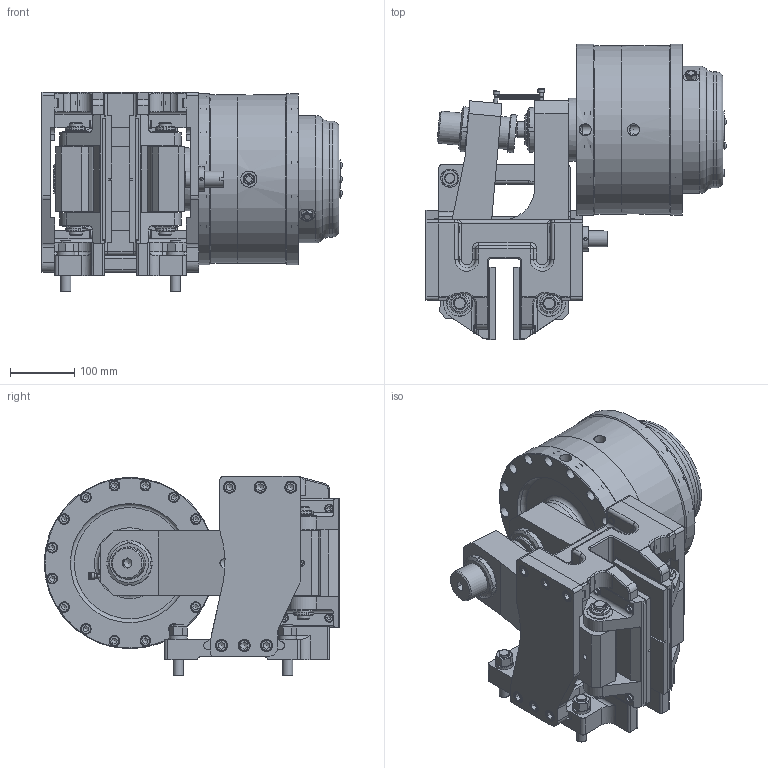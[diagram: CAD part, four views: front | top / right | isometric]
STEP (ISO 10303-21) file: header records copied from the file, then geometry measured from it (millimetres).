
FILE_DESCRIPTION(/* description */ ('','CAx-IF Rec.Pracs.---Representation and Presentation of Product Manufacturing Information (PMI)---4.0---2014-10-13'),/* implementation_level */ '2;1');
FILE_NAME(/* name */ 'X:\INVENTOR\DISEGNI\19_Pinze\STEP x Sito\PNEUM-NEGATIVE\19_36_070_04 PPT-N070_25,4.stp',/* time_stamp */ '2018-10-26T08:21:54+02:00',/* author */ ('stefano'),/* organization */ (''),/* preprocessor_version */ 'ST-DEVELOPER v17',/* originating_system */ 'Autodesk Inventor 2018',/* authorisation */ '');
FILE_SCHEMA (('AP242_MANAGED_MODEL_BASED_3D_ENGINEERING_MIM_LF { 1 0 10303 442 1 1 4 }'));
Products named in the file (1): 19_36_070_04 PPT-N070_25,4_Substitute_2
Bounding box: 466.35 x 459 x 310 mm (x, y, z)
Volume: 15047956.3 mm3; surface area: 1680107 mm2
Topology: 1 solids, 1 shells, 2143 faces, 5914 edges, 4001 vertices
Faces by surface type: plane 1121, cylinder 559, cone 245, torus 186, bspline 24, sphere 8
Full cylindrical faces by diameter (mm): 1.2 x2, 4.917 x6, 5 x4, 5.25 x4, 6 x2, 6.3 x6, 6.917 x1, 8 x8, 8.376 x19, 8.5 x8, 8.917 x1, 9.188 x1, 9.5 x3, 10 x6, 10.106 x6, 10.5 x18, 10.647 x2, 11.445 x4, 12 x16, 12.5 x12, 13 x9, 13.5 x8, 14 x1, 15 x2, 16 x38, 16.5 x48, 17 x5, 18 x14, 18.631 x2, 19 x12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
Entity records: 78870 total; most frequent: CARTESIAN_POINT 22120, ORIENTED_EDGE 11640, DIRECTION 11590, EDGE_CURVE 5820, AXIS2_PLACEMENT_3D 4524, VERTEX_POINT 4001, EDGE_LOOP 2572, LINE 2542
